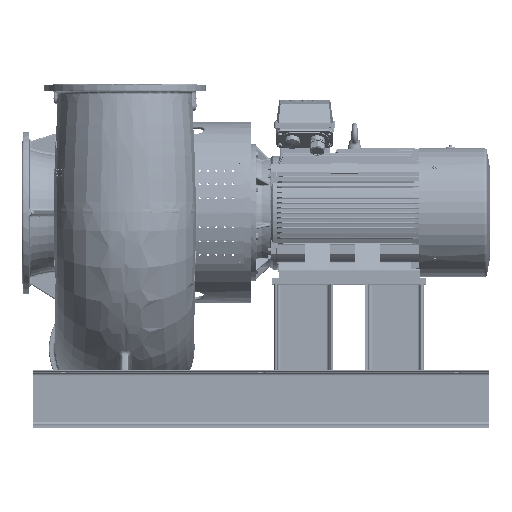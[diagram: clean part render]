
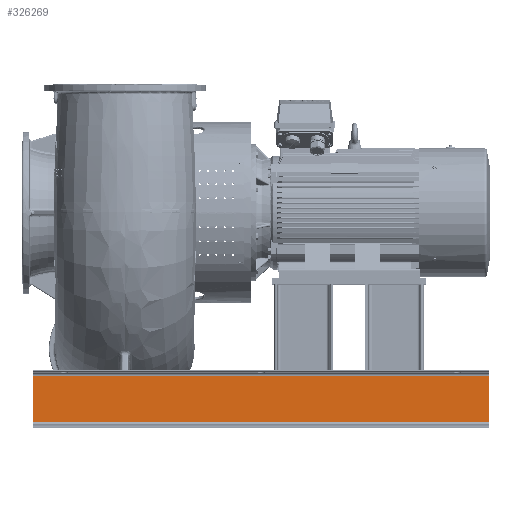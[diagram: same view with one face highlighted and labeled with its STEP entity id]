
A CAD part, top view. The second image highlights one B-rep face of the part: STEP entity #326269.
In plain terms, the highlighted planar face has unit normal (0, 0, 1) as drawn and (1, 0, 0) by its records, which use the part's own axes.
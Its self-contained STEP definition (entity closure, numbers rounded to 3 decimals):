
#317875=DIRECTION('',(0.,1.,0.));
#317876=VECTOR('',#317875,221.685);
#317877=CARTESIAN_POINT('',(845.,29.157,130.));
#317878=LINE('',#317877,#317876);
#320547=DIRECTION('',(0.,1.,0.));
#320548=VECTOR('',#320547,221.685);
#320549=CARTESIAN_POINT('',(845.,29.157,-2060.));
#320550=LINE('',#320549,#320548);
#321101=DIRECTION('',(0.,0.,-1.));
#321102=VECTOR('',#321101,2190.);
#321103=CARTESIAN_POINT('',(845.,29.157,130.));
#321104=LINE('',#321103,#321102);
#321105=DIRECTION('',(0.,0.,-1.));
#321106=VECTOR('',#321105,2190.);
#321107=CARTESIAN_POINT('',(845.,250.843,130.));
#321108=LINE('',#321107,#321106);
#321581=CARTESIAN_POINT('',(845.,29.157,130.));
#321582=VERTEX_POINT('',#321581);
#321583=CARTESIAN_POINT('',(845.,250.843,130.));
#321584=VERTEX_POINT('',#321583);
#321609=CARTESIAN_POINT('',(845.,29.157,-2060.));
#321610=VERTEX_POINT('',#321609);
#321611=CARTESIAN_POINT('',(845.,250.843,-2060.));
#321612=VERTEX_POINT('',#321611);
#326257=CARTESIAN_POINT('',(845.,29.157,130.));
#326258=DIRECTION('',(1.,0.,0.));
#326259=DIRECTION('',(0.,1.,0.));
#326260=AXIS2_PLACEMENT_3D('',#326257,#326258,#326259);
#326261=PLANE('',#326260);
#326262=ORIENTED_EDGE('',*,*,#322404,.T.);
#326264=ORIENTED_EDGE('',*,*,#326263,.T.);
#326265=ORIENTED_EDGE('',*,*,#325858,.F.);
#326266=ORIENTED_EDGE('',*,*,#326250,.F.);
#326267=EDGE_LOOP('',(#326262,#326264,#326265,#326266));
#326268=FACE_OUTER_BOUND('',#326267,.F.);
#326269=ADVANCED_FACE('',(#326268),#326261,.T.);
#322404=EDGE_CURVE('',#321582,#321584,#317878,.T.);
#325858=EDGE_CURVE('',#321610,#321612,#320550,.T.);
#326250=EDGE_CURVE('',#321582,#321610,#321104,.T.);
#326263=EDGE_CURVE('',#321584,#321612,#321108,.T.);
